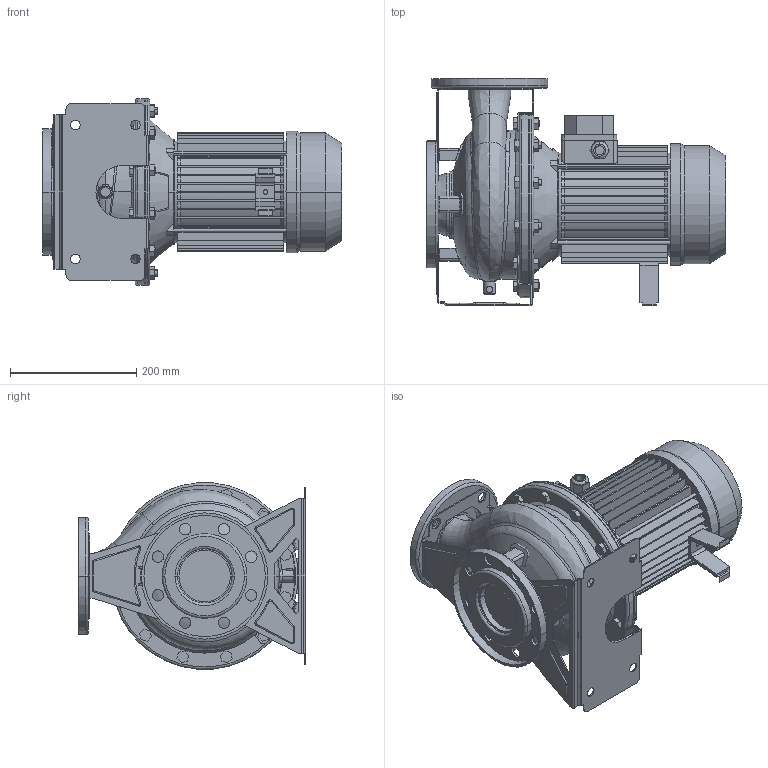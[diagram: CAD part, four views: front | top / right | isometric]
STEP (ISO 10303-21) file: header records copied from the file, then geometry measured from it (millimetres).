
FILE_DESCRIPTION((''),'2;1');
FILE_NAME('3M4_65-160_2_2_IE2_ASM','2012-03-14T',('Rosa'),('"Ebara Pumps Europe +39.444.706811"'),'PRO/ENGINEER BY PARAMETRIC TECHNOLOGY CORPORATION, 2009360','PRO/ENGINEER BY PARAMETRIC TECHNOLOGY CORPORATION, 2009360','');
FILE_SCHEMA(('AUTOMOTIVE_DESIGN { 1 0 10303 214 1 1 1 1 }'));
Length unit declared in the file: millimetre
Products named in the file (11): CORPO_65-160; ASP_65-160; FLANGIA_DIN_80_8_FORI; MAND_65-160; FLANGIA_DIN_65; BASE_3M_65-160; CORPO_SALDATO_65-160_ASM; SUPPORTO_3M_230_100; MEC_100X130_IE2; SOSTEGNO_72007; 3M4_65-160_2_2_IE2_ASM
Assembly tree (10 placements, depth 3):
  3M4_65-160_2_2_IE2_ASM
    CORPO_SALDATO_65-160_ASM
      CORPO_65-160
      ASP_65-160
      FLANGIA_DIN_80_8_FORI
      MAND_65-160
      FLANGIA_DIN_65
      BASE_3M_65-160
    SUPPORTO_3M_230_100
    MEC_100X130_IE2
    SOSTEGNO_72007
Bounding box: 474 x 360 x 295.13 mm (x, y, z)
Volume: 11363750 mm3; surface area: 1354495.3 mm2
Topology: 12 solids, 12 shells, 1114 faces, 2833 edges, 1810 vertices
Faces by surface type: plane 597, cylinder 320, cone 98, torus 60, bspline 33, sphere 6
Entity records: 48733 total; most frequent: CARTESIAN_POINT 10045, DIRECTION 5808, ORIENTED_EDGE 5666, PRESENTATION_STYLE_ASSIGNMENT 2845, STYLED_ITEM 2845, CURVE_STYLE 2833, EDGE_CURVE 2833, AXIS2_PLACEMENT_3D 2102
